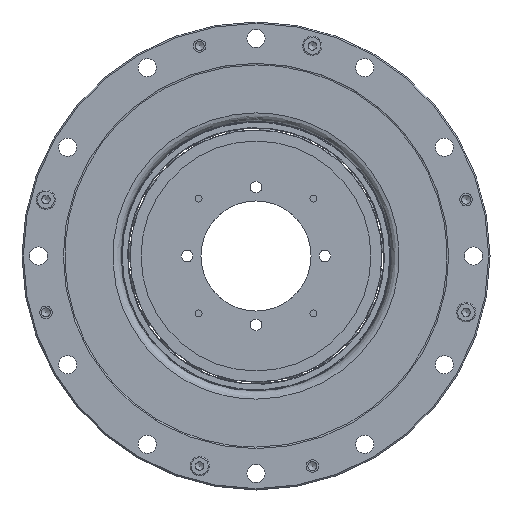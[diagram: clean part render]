
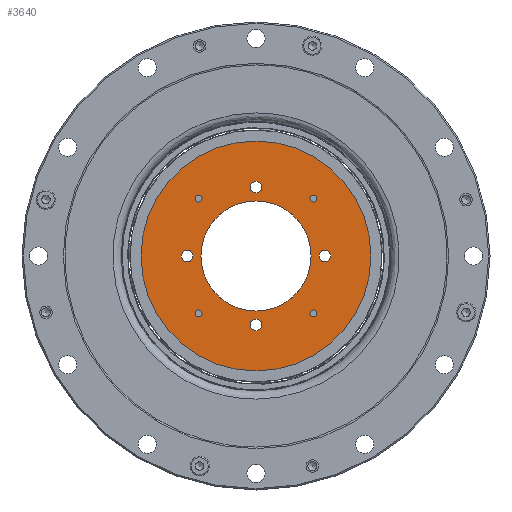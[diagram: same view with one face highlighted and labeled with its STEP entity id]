
A CAD part, left-side view. The second image highlights one B-rep face of the part: STEP entity #3640.
In plain terms, the highlighted planar face has unit normal (-1, 0, 0).
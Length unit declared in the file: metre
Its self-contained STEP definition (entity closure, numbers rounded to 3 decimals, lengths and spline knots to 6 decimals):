
#159 = DIRECTION ( 'NONE',  ( -1., 0., 0. ) ) ;
#243 = ORIENTED_EDGE ( 'NONE', *, *, #17804, .F. ) ;
#399 = DIRECTION ( 'NONE',  ( 0., 0., -1. ) ) ;
#414 = CIRCLE ( 'NONE', #19709, 0.00125 ) ;
#423 = FACE_BOUND ( 'NONE', #9600, .T. ) ;
#508 = DIRECTION ( 'NONE',  ( 0., 0., -1. ) ) ;
#550 = FACE_BOUND ( 'NONE', #11582, .T. ) ;
#1428 = EDGE_CURVE ( 'NONE', #6323, #6323, #15962, .T. ) ;
#1495 = DIRECTION ( 'NONE',  ( 0., 0., -1. ) ) ;
#1945 = CARTESIAN_POINT ( 'NONE',  ( -0.01345, 0., 0. ) ) ;
#2067 = DIRECTION ( 'NONE',  ( 0., 0., -1. ) ) ;
#2115 = CARTESIAN_POINT ( 'NONE',  ( -0.01345, 0.02086, -0.02211 ) ) ;
#2134 = CARTESIAN_POINT ( 'NONE',  ( -0.01345, 0., 0.025 ) ) ;
#2272 = AXIS2_PLACEMENT_3D ( 'NONE', #1945, #21707, #2067 ) ;
#2412 = FACE_BOUND ( 'NONE', #10299, .T. ) ;
#2848 = AXIS2_PLACEMENT_3D ( 'NONE', #13654, #6245, #22253 ) ;
#2855 = CARTESIAN_POINT ( 'NONE',  ( -0.01345, 0.02086, 0.01961 ) ) ;
#3224 = CARTESIAN_POINT ( 'NONE',  ( -0.01345, -0.02086, -0.02086 ) ) ;
#3350 = AXIS2_PLACEMENT_3D ( 'NONE', #17399, #17743, #1495 ) ;
#3621 = CARTESIAN_POINT ( 'NONE',  ( -0.01345, 0.025, 0. ) ) ;
#3631 = DIRECTION ( 'NONE',  ( 1., 0., 0. ) ) ;
#3640 = ADVANCED_FACE ( 'NONE', ( #13090, #423, #550, #12624, #2412, #12965, #3912, #19845, #21811, #14607 ), #20199, .F. ) ;
#3724 = DIRECTION ( 'NONE',  ( 0., 0., -1. ) ) ;
#3875 = EDGE_CURVE ( 'NONE', #14075, #14075, #414, .T. ) ;
#3912 = FACE_BOUND ( 'NONE', #17097, .T. ) ;
#4188 = EDGE_LOOP ( 'NONE', ( #21327 ) ) ;
#4350 = CARTESIAN_POINT ( 'NONE',  ( -0.01345, 0., -0.0271 ) ) ;
#4455 = EDGE_LOOP ( 'NONE', ( #20394 ) ) ;
#4610 = CIRCLE ( 'NONE', #9051, 0.0021 ) ;
#4865 = CIRCLE ( 'NONE', #17828, 0.00125 ) ;
#4941 = VERTEX_POINT ( 'NONE', #2855 ) ;
#5449 = EDGE_CURVE ( 'NONE', #16042, #16042, #14952, .T. ) ;
#5507 = CARTESIAN_POINT ( 'NONE',  ( -0.01345, 0., 0. ) ) ;
#5533 = CARTESIAN_POINT ( 'NONE',  ( -0.01345, 0., -0.025 ) ) ;
#5850 = VERTEX_POINT ( 'NONE', #9438 ) ;
#6056 = DIRECTION ( 'NONE',  ( -1., 0., 0. ) ) ;
#6236 = VERTEX_POINT ( 'NONE', #13306 ) ;
#6245 = DIRECTION ( 'NONE',  ( -1., 0., 0. ) ) ;
#6323 = VERTEX_POINT ( 'NONE', #4350 ) ;
#6339 = VERTEX_POINT ( 'NONE', #19098 ) ;
#6507 = DIRECTION ( 'NONE',  ( 0., 0., -1. ) ) ;
#6907 = EDGE_CURVE ( 'NONE', #5850, #5850, #13363, .T. ) ;
#7302 = CIRCLE ( 'NONE', #20670, 0.02 ) ;
#7348 = CARTESIAN_POINT ( 'NONE',  ( -0.01345, 0.025, -0.0021 ) ) ;
#7355 = EDGE_CURVE ( 'NONE', #18485, #18485, #4865, .T. ) ;
#7445 = ORIENTED_EDGE ( 'NONE', *, *, #20024, .F. ) ;
#7735 = ORIENTED_EDGE ( 'NONE', *, *, #6907, .F. ) ;
#8274 = CIRCLE ( 'NONE', #9016, 0.04175 ) ;
#8597 = ORIENTED_EDGE ( 'NONE', *, *, #3875, .F. ) ;
#8897 = CIRCLE ( 'NONE', #21894, 0.00125 ) ;
#9016 = AXIS2_PLACEMENT_3D ( 'NONE', #5507, #3631, #21657 ) ;
#9051 = AXIS2_PLACEMENT_3D ( 'NONE', #2134, #159, #508 ) ;
#9438 = CARTESIAN_POINT ( 'NONE',  ( -0.01345, -0.025, -0.0021 ) ) ;
#9600 = EDGE_LOOP ( 'NONE', ( #243 ) ) ;
#9984 = EDGE_LOOP ( 'NONE', ( #7735 ) ) ;
#10297 = CARTESIAN_POINT ( 'NONE',  ( -0.01345, -0.02086, 0.01961 ) ) ;
#10299 = EDGE_LOOP ( 'NONE', ( #16157 ) ) ;
#10912 = EDGE_CURVE ( 'NONE', #11923, #11923, #8897, .T. ) ;
#11193 = DIRECTION ( 'NONE',  ( -1., 0., 0. ) ) ;
#11551 = DIRECTION ( 'NONE',  ( -1., 0., 0. ) ) ;
#11582 = EDGE_LOOP ( 'NONE', ( #21030 ) ) ;
#11848 = ORIENTED_EDGE ( 'NONE', *, *, #7355, .F. ) ;
#11923 = VERTEX_POINT ( 'NONE', #10297 ) ;
#12624 = FACE_BOUND ( 'NONE', #22194, .T. ) ;
#12695 = VERTEX_POINT ( 'NONE', #20026 ) ;
#12965 = FACE_BOUND ( 'NONE', #9984, .T. ) ;
#13090 = FACE_OUTER_BOUND ( 'NONE', #4188, .T. ) ;
#13306 = CARTESIAN_POINT ( 'NONE',  ( -0.01345, 0., 0.04175 ) ) ;
#13363 = CIRCLE ( 'NONE', #3350, 0.0021 ) ;
#13654 = CARTESIAN_POINT ( 'NONE',  ( -0.01345, 0.02086, 0.02086 ) ) ;
#13898 = DIRECTION ( 'NONE',  ( 0., 0., -1. ) ) ;
#14002 = DIRECTION ( 'NONE',  ( 0., 0., -1. ) ) ;
#14075 = VERTEX_POINT ( 'NONE', #2115 ) ;
#14209 = AXIS2_PLACEMENT_3D ( 'NONE', #3621, #21299, #3724 ) ;
#14348 = CIRCLE ( 'NONE', #2848, 0.00125 ) ;
#14607 = FACE_BOUND ( 'NONE', #4455, .T. ) ;
#14952 = CIRCLE ( 'NONE', #14209, 0.0021 ) ;
#15097 = CARTESIAN_POINT ( 'NONE',  ( -0.01345, -0.02086, 0.02086 ) ) ;
#15857 = EDGE_CURVE ( 'NONE', #6236, #6236, #8274, .T. ) ;
#15860 = EDGE_LOOP ( 'NONE', ( #8597 ) ) ;
#15962 = CIRCLE ( 'NONE', #16715, 0.0021 ) ;
#16042 = VERTEX_POINT ( 'NONE', #7348 ) ;
#16157 = ORIENTED_EDGE ( 'NONE', *, *, #1428, .F. ) ;
#16567 = EDGE_LOOP ( 'NONE', ( #11848 ) ) ;
#16715 = AXIS2_PLACEMENT_3D ( 'NONE', #5533, #11193, #399 ) ;
#17097 = EDGE_LOOP ( 'NONE', ( #7445 ) ) ;
#17399 = CARTESIAN_POINT ( 'NONE',  ( -0.01345, -0.025, 0. ) ) ;
#17743 = DIRECTION ( 'NONE',  ( -1., 0., 0. ) ) ;
#17796 = EDGE_CURVE ( 'NONE', #4941, #4941, #14348, .T. ) ;
#17804 = EDGE_CURVE ( 'NONE', #6339, #6339, #7302, .T. ) ;
#17828 = AXIS2_PLACEMENT_3D ( 'NONE', #3224, #19122, #13898 ) ;
#18133 = CARTESIAN_POINT ( 'NONE',  ( -0.01345, -0.02086, -0.02211 ) ) ;
#18485 = VERTEX_POINT ( 'NONE', #18133 ) ;
#19098 = CARTESIAN_POINT ( 'NONE',  ( -0.01345, 0., 0.02 ) ) ;
#19122 = DIRECTION ( 'NONE',  ( -1., 0., 0. ) ) ;
#19459 = CARTESIAN_POINT ( 'NONE',  ( -0.01345, 0.02086, -0.02086 ) ) ;
#19709 = AXIS2_PLACEMENT_3D ( 'NONE', #19459, #20879, #14002 ) ;
#19845 = FACE_BOUND ( 'NONE', #15860, .T. ) ;
#20024 = EDGE_CURVE ( 'NONE', #12695, #12695, #4610, .T. ) ;
#20026 = CARTESIAN_POINT ( 'NONE',  ( -0.01345, 0., 0.0229 ) ) ;
#20199 = PLANE ( 'NONE',  #2272 ) ;
#20394 = ORIENTED_EDGE ( 'NONE', *, *, #10912, .F. ) ;
#20414 = DIRECTION ( 'NONE',  ( 0., 0., 1. ) ) ;
#20670 = AXIS2_PLACEMENT_3D ( 'NONE', #20868, #11551, #20414 ) ;
#20868 = CARTESIAN_POINT ( 'NONE',  ( -0.01345, 0., 0. ) ) ;
#20879 = DIRECTION ( 'NONE',  ( -1., 0., 0. ) ) ;
#21030 = ORIENTED_EDGE ( 'NONE', *, *, #5449, .F. ) ;
#21299 = DIRECTION ( 'NONE',  ( -1., 0., 0. ) ) ;
#21327 = ORIENTED_EDGE ( 'NONE', *, *, #15857, .F. ) ;
#21657 = DIRECTION ( 'NONE',  ( 0., 0., 1. ) ) ;
#21707 = DIRECTION ( 'NONE',  ( 1., 0., 0. ) ) ;
#21811 = FACE_BOUND ( 'NONE', #16567, .T. ) ;
#21894 = AXIS2_PLACEMENT_3D ( 'NONE', #15097, #6056, #6507 ) ;
#22194 = EDGE_LOOP ( 'NONE', ( #22991 ) ) ;
#22253 = DIRECTION ( 'NONE',  ( 0., 0., -1. ) ) ;
#22991 = ORIENTED_EDGE ( 'NONE', *, *, #17796, .F. ) ;
